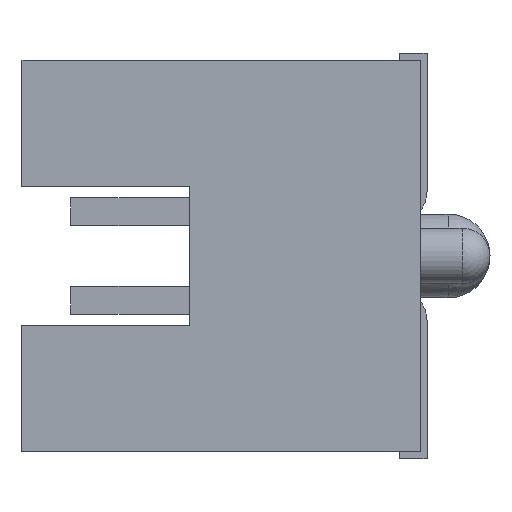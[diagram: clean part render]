
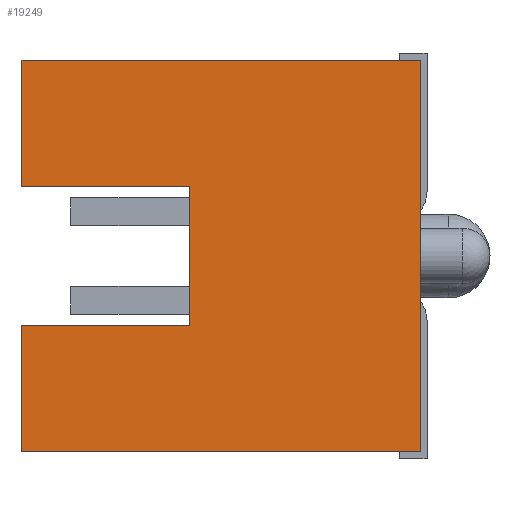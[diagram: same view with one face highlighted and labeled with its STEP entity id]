
A CAD part, left-side view. The second image highlights one B-rep face of the part: STEP entity #19249.
In plain terms, the highlighted planar face has unit normal (-1, 0, 0).
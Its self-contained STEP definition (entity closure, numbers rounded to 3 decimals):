
#1257 = LINE ( 'NONE', #23196, #21790 ) ;
#1495 = DIRECTION ( 'NONE',  ( 0., 0., -1. ) ) ;
#4098 = EDGE_CURVE ( 'NONE', #25837, #35925, #6700, .T. ) ;
#4903 = EDGE_CURVE ( 'NONE', #10012, #20651, #14174, .T. ) ;
#5043 = ORIENTED_EDGE ( 'NONE', *, *, #36472, .F. ) ;
#5057 = ORIENTED_EDGE ( 'NONE', *, *, #45228, .T. ) ;
#6429 = VERTEX_POINT ( 'NONE', #16082 ) ;
#6700 = LINE ( 'NONE', #23877, #23914 ) ;
#6737 = EDGE_CURVE ( 'NONE', #35925, #20651, #9078, .T. ) ;
#7172 = ORIENTED_EDGE ( 'NONE', *, *, #42745, .T. ) ;
#7208 = VECTOR ( 'NONE', #38827, 1000. ) ;
#7740 = ORIENTED_EDGE ( 'NONE', *, *, #4098, .T. ) ;
#8253 = DIRECTION ( 'NONE',  ( 0., 0., 1. ) ) ;
#9078 = LINE ( 'NONE', #31307, #42582 ) ;
#9247 = VECTOR ( 'NONE', #25268, 1000. ) ;
#10012 = VERTEX_POINT ( 'NONE', #28188 ) ;
#10611 = LINE ( 'NONE', #21366, #7208 ) ;
#14174 = LINE ( 'NONE', #14635, #42445 ) ;
#14225 = ORIENTED_EDGE ( 'NONE', *, *, #26262, .F. ) ;
#14635 = CARTESIAN_POINT ( 'NONE',  ( -31.899, 3.046, -2.8 ) ) ;
#14943 = EDGE_LOOP ( 'NONE', ( #41017, #5043, #7172, #38013, #14225, #5057, #7740, #34450 ) ) ;
#15192 = FACE_OUTER_BOUND ( 'NONE', #14943, .T. ) ;
#15661 = CARTESIAN_POINT ( 'NONE',  ( -31.899, 3.046, 2.8 ) ) ;
#16082 = CARTESIAN_POINT ( 'NONE',  ( -31.899, 3.046, 2.8 ) ) ;
#16123 = CARTESIAN_POINT ( 'NONE',  ( -31.899, 0.646, -1. ) ) ;
#18996 = LINE ( 'NONE', #16123, #35252 ) ;
#19249 = ADVANCED_FACE ( 'NONE', ( #15192 ), #26172, .F. ) ;
#20322 = DIRECTION ( 'NONE',  ( 0., 1., 0. ) ) ;
#20651 = VERTEX_POINT ( 'NONE', #40661 ) ;
#20813 = CARTESIAN_POINT ( 'NONE',  ( -31.899, 0.646, 1. ) ) ;
#21294 = AXIS2_PLACEMENT_3D ( 'NONE', #40720, #37162, #8253 ) ;
#21366 = CARTESIAN_POINT ( 'NONE',  ( -31.899, 0.646, 1. ) ) ;
#21790 = VECTOR ( 'NONE', #1495, 1000. ) ;
#21936 = CARTESIAN_POINT ( 'NONE',  ( -31.899, 3.046, -1. ) ) ;
#23196 = CARTESIAN_POINT ( 'NONE',  ( -31.899, -2.654, 2.8 ) ) ;
#23745 = VERTEX_POINT ( 'NONE', #20813 ) ;
#23877 = CARTESIAN_POINT ( 'NONE',  ( -31.899, 0.646, -1. ) ) ;
#23914 = VECTOR ( 'NONE', #20322, 1000. ) ;
#25268 = DIRECTION ( 'NONE',  ( 0., 0., -1. ) ) ;
#25837 = VERTEX_POINT ( 'NONE', #26294 ) ;
#26172 = PLANE ( 'NONE',  #21294 ) ;
#26262 = EDGE_CURVE ( 'NONE', #23745, #27586, #10611, .T. ) ;
#26294 = CARTESIAN_POINT ( 'NONE',  ( -31.899, 0.646, -1. ) ) ;
#26889 = LINE ( 'NONE', #46029, #43631 ) ;
#27085 = DIRECTION ( 'NONE',  ( 0., 0., -1. ) ) ;
#27586 = VERTEX_POINT ( 'NONE', #42100 ) ;
#28188 = CARTESIAN_POINT ( 'NONE',  ( -31.899, -2.654, -2.8 ) ) ;
#28456 = VERTEX_POINT ( 'NONE', #43823 ) ;
#28738 = DIRECTION ( 'NONE',  ( 0., 1., 0. ) ) ;
#30491 = DIRECTION ( 'NONE',  ( 0., 1., 0. ) ) ;
#31071 = DIRECTION ( 'NONE',  ( 0., 0., -1. ) ) ;
#31307 = CARTESIAN_POINT ( 'NONE',  ( -31.899, 3.046, 2.8 ) ) ;
#34450 = ORIENTED_EDGE ( 'NONE', *, *, #6737, .T. ) ;
#35252 = VECTOR ( 'NONE', #27085, 1000. ) ;
#35925 = VERTEX_POINT ( 'NONE', #21936 ) ;
#36472 = EDGE_CURVE ( 'NONE', #28456, #10012, #1257, .T. ) ;
#37162 = DIRECTION ( 'NONE',  ( 1., 0., 0. ) ) ;
#38013 = ORIENTED_EDGE ( 'NONE', *, *, #43835, .T. ) ;
#38827 = DIRECTION ( 'NONE',  ( 0., 1., 0. ) ) ;
#40661 = CARTESIAN_POINT ( 'NONE',  ( -31.899, 3.046, -2.8 ) ) ;
#40720 = CARTESIAN_POINT ( 'NONE',  ( -31.899, 3.046, 2.8 ) ) ;
#40932 = LINE ( 'NONE', #15661, #9247 ) ;
#41017 = ORIENTED_EDGE ( 'NONE', *, *, #4903, .F. ) ;
#42100 = CARTESIAN_POINT ( 'NONE',  ( -31.899, 3.046, 1. ) ) ;
#42445 = VECTOR ( 'NONE', #28738, 1000. ) ;
#42582 = VECTOR ( 'NONE', #31071, 1000. ) ;
#42745 = EDGE_CURVE ( 'NONE', #28456, #6429, #26889, .T. ) ;
#43631 = VECTOR ( 'NONE', #30491, 1000. ) ;
#43823 = CARTESIAN_POINT ( 'NONE',  ( -31.899, -2.654, 2.8 ) ) ;
#43835 = EDGE_CURVE ( 'NONE', #6429, #27586, #40932, .T. ) ;
#45228 = EDGE_CURVE ( 'NONE', #23745, #25837, #18996, .T. ) ;
#46029 = CARTESIAN_POINT ( 'NONE',  ( -31.899, 3.046, 2.8 ) ) ;
